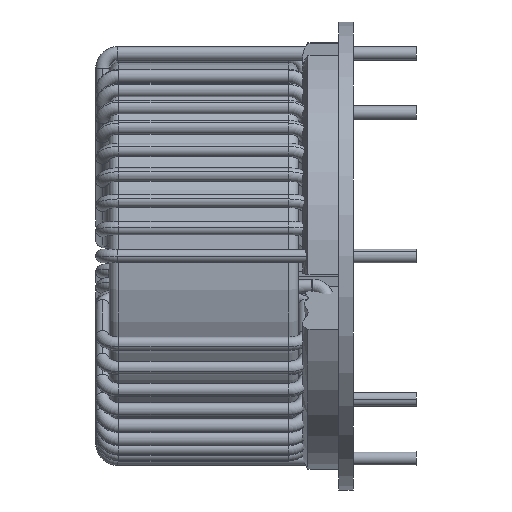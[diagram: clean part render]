
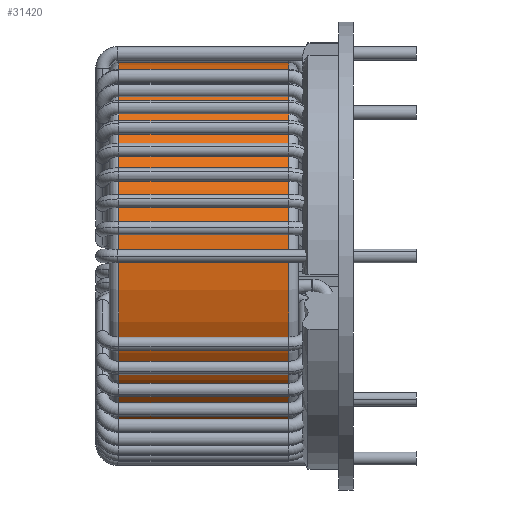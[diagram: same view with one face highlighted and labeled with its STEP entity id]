
A CAD part, left-side view. The second image highlights one B-rep face of the part: STEP entity #31420.
In plain terms, the highlighted cylindrical face has radius 40.105 mm (diameter 80.21 mm), a partial arc.
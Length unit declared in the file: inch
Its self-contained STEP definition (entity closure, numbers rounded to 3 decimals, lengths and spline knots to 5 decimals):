
#875 = CARTESIAN_POINT ( 'NONE',  ( 0., 1.91181, 0. ) ) ;
#1451 = CARTESIAN_POINT ( 'NONE',  ( 0., 0.52638, -1.57894 ) ) ;
#3420 = ORIENTED_EDGE ( 'NONE', *, *, #30447, .T. ) ;
#4999 = DIRECTION ( 'NONE',  ( 0., 0., 1. ) ) ;
#5120 = DIRECTION ( 'NONE',  ( 0., 0., 1. ) ) ;
#5151 = EDGE_CURVE ( 'NONE', #22319, #10437, #31902, .T. ) ;
#5430 = DIRECTION ( 'NONE',  ( 0., -1., 0. ) ) ;
#6836 = LINE ( 'NONE', #8374, #12100 ) ;
#7348 = DIRECTION ( 'NONE',  ( 0., -1., 0. ) ) ;
#7408 = VERTEX_POINT ( 'NONE', #1451 ) ;
#7875 = CARTESIAN_POINT ( 'NONE',  ( 0., 1.99055, -1.57894 ) ) ;
#8271 = VECTOR ( 'NONE', #14639, 39.37008 ) ;
#8374 = CARTESIAN_POINT ( 'NONE',  ( 0., 1.99055, 1.57894 ) ) ;
#8384 = CIRCLE ( 'NONE', #28930, 1.57894 ) ;
#10437 = VERTEX_POINT ( 'NONE', #27804 ) ;
#12100 = VECTOR ( 'NONE', #7348, 39.37008 ) ;
#14536 = EDGE_LOOP ( 'NONE', ( #17129, #29454, #20482, #3420 ) ) ;
#14639 = DIRECTION ( 'NONE',  ( 0., -1., 0. ) ) ;
#14653 = EDGE_CURVE ( 'NONE', #22319, #28991, #6836, .T. ) ;
#15467 = DIRECTION ( 'NONE',  ( 0., 1., 0. ) ) ;
#16846 = FACE_OUTER_BOUND ( 'NONE', #14536, .T. ) ;
#17129 = ORIENTED_EDGE ( 'NONE', *, *, #14653, .F. ) ;
#18828 = EDGE_CURVE ( 'NONE', #10437, #7408, #19332, .T. ) ;
#18967 = DIRECTION ( 'NONE',  ( 0., -1., 0. ) ) ;
#19089 = CARTESIAN_POINT ( 'NONE',  ( 0., 0.52638, 0. ) ) ;
#19332 = LINE ( 'NONE', #7875, #8271 ) ;
#20482 = ORIENTED_EDGE ( 'NONE', *, *, #18828, .T. ) ;
#22319 = VERTEX_POINT ( 'NONE', #25465 ) ;
#24054 = DIRECTION ( 'NONE',  ( 0., 0., -1. ) ) ;
#25465 = CARTESIAN_POINT ( 'NONE',  ( 0., 1.91181, 1.57894 ) ) ;
#25556 = CARTESIAN_POINT ( 'NONE',  ( 0., 1.99055, 0. ) ) ;
#27804 = CARTESIAN_POINT ( 'NONE',  ( 0., 1.91181, -1.57894 ) ) ;
#28930 = AXIS2_PLACEMENT_3D ( 'NONE', #19089, #15467, #5120 ) ;
#28991 = VERTEX_POINT ( 'NONE', #29897 ) ;
#29151 = CYLINDRICAL_SURFACE ( 'NONE', #29522, 1.57894 ) ;
#29454 = ORIENTED_EDGE ( 'NONE', *, *, #5151, .T. ) ;
#29522 = AXIS2_PLACEMENT_3D ( 'NONE', #25556, #5430, #24054 ) ;
#29897 = CARTESIAN_POINT ( 'NONE',  ( 0., 0.52638, 1.57894 ) ) ;
#30447 = EDGE_CURVE ( 'NONE', #7408, #28991, #8384, .T. ) ;
#30536 = AXIS2_PLACEMENT_3D ( 'NONE', #875, #18967, #4999 ) ;
#31420 = ADVANCED_FACE ( 'NONE', ( #16846 ), #29151, .T. ) ;
#31902 = CIRCLE ( 'NONE', #30536, 1.57894 ) ;
